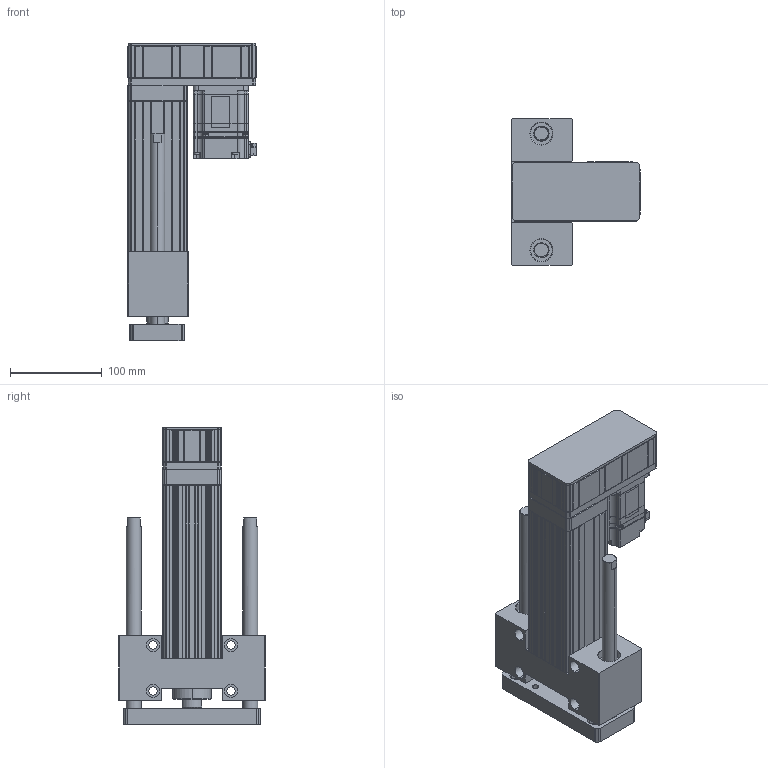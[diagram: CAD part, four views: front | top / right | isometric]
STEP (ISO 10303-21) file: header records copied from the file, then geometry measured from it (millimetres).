
FILE_DESCRIPTION (( 'STEP AP203' ), '1' );
FILE_NAME ('ANS065-HP100-05(10)-W20.STEP', '2019-03-01T05:39:08', ( 'user' ), ( '' ), 'SwSTEP 2.0', 'SolidWorks 2013', '' );
FILE_SCHEMA (( 'CONFIG_CONTROL_DESIGN' ));
Length unit declared in the file: millimetre
Products named in the file (4): ANS065 HP100 VER2; ANS065 ROD ST100 G; sgmjv_02a_a21; ANS065-HP100-05(10)-W20
Assembly tree (3 placements, depth 2):
  ANS065-HP100-05(10)-W20
    ANS065 HP100 VER2
    ANS065 ROD ST100 G
    sgmjv_02a_a21
Bounding box: 140.3 x 160 x 324.5 mm (x, y, z)
Volume: 1612172 mm3; surface area: 358139.8 mm2
Topology: 3 solids, 7 shells, 1458 faces, 3875 edges, 2502 vertices
Faces by surface type: plane 896, cylinder 452, cone 110
Entity records: 45387 total; most frequent: CARTESIAN_POINT 8127, ORIENTED_EDGE 7710, DIRECTION 7657, EDGE_CURVE 3855, LINE 2793, VECTOR 2793, VERTEX_POINT 2502, AXIS2_PLACEMENT_3D 2432
